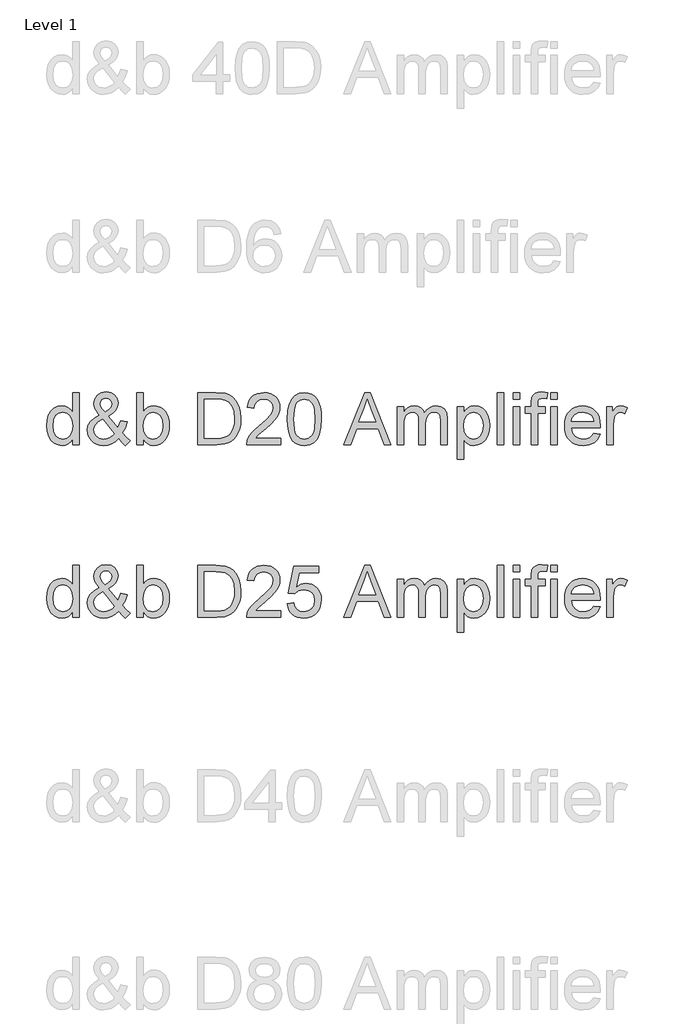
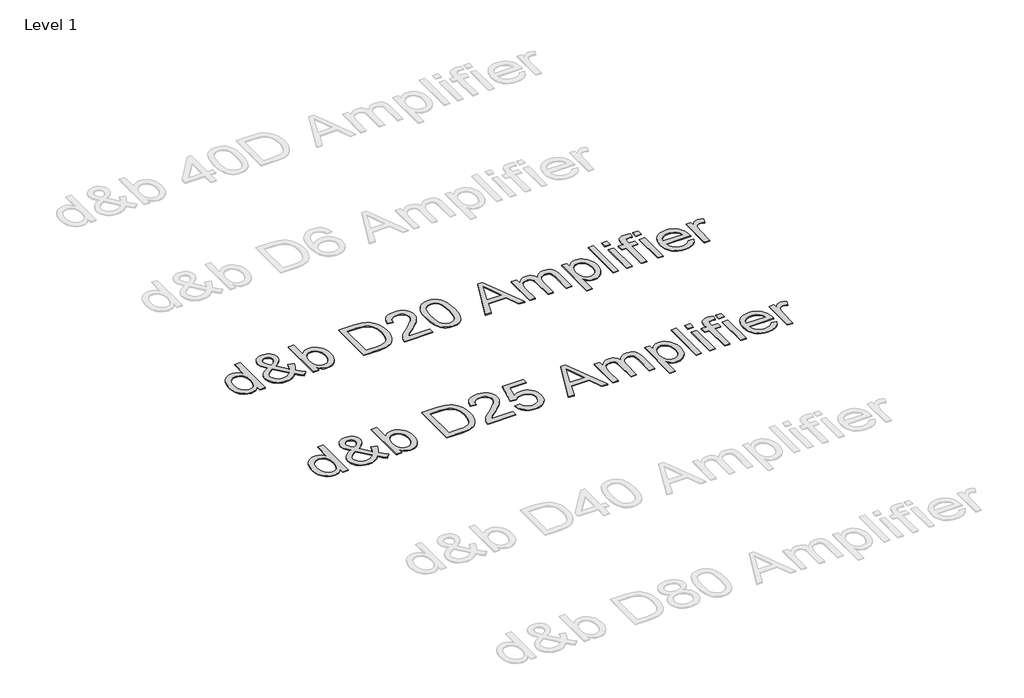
# One storey, part 7 of 14: 2 proxies.
"""IFC4 building model written with IfcOpenShell, lengths in millimetres."""

import ifcopenshell
import ifcopenshell.guid

model = None  # the IFC model being written
_history = None  # IfcOwnerHistory: only IFC2X3 demands one
_inside = {}  # id of a spatial element -> (the spatial element, [elements in it])
_under = {}  # id of a project, library or spatial element -> (it, [spatial elements below it])
_declared = {}  # id of a project -> (the project, [libraries it declares])
_typed = {}  # id of a type object -> (the type object, [elements of that type])
_made_of = {}  # id of a material, layer set ... -> (it, [elements and type objects made of it])


def new_model(schema):
    """Start an empty IFC model of exactly this schema.

    Asked for "IFC4X3", IfcOpenShell would pick the latest addendum, in which some entities
    have other attributes; the version numbers below select the first issue.
    IFC2X3 requires an IfcOwnerHistory on every rooted entity: one is made here for all.
    """
    global model, _history
    if schema == "IFC4X3":
        model = ifcopenshell.file(schema_version=(4, 3, 0, 0))
    else:
        model = ifcopenshell.file(schema=schema)
    _inside.clear()
    _under.clear()
    _declared.clear()
    _typed.clear()
    _made_of.clear()
    _history = None
    if model.schema == "IFC2X3":
        org = make("IfcOrganization", Name="unknown")
        user = make(
            "IfcPersonAndOrganization",
            ThePerson=make("IfcPerson", FamilyName="unknown"),
            TheOrganization=org,
        )
        app = make(
            "IfcApplication",
            ApplicationDeveloper=org,
            Version="unknown",
            ApplicationFullName="unknown",
            ApplicationIdentifier="unknown",
        )
        _history = make(
            "IfcOwnerHistory",
            OwningUser=user,
            OwningApplication=app,
            ChangeAction="ADDED",
            CreationDate=0,
        )
    return model


def make(cls, **values):
    """One entity of the class cls with the attributes given. An attribute that is None is left unset."""
    return model.create_entity(
        cls, **{name: value for name, value in values.items() if value is not None}
    )


def rooted(cls, **values):
    """An entity with a GlobalId (a new one), such as an element, a storey or a relation."""
    return make(cls, GlobalId=ifcopenshell.guid.new(), OwnerHistory=_history, **values)


def si_unit(unit_type, name, prefix=None):
    """IfcSIUnit, for example si_unit("LENGTHUNIT", "METRE", prefix="MILLI")."""
    return make("IfcSIUnit", UnitType=unit_type, Prefix=prefix, Name=name)


def assignment(units):
    """IfcUnitAssignment: the units of a project."""
    return None if units is None else make("IfcUnitAssignment", Units=units)


def point(xyz):
    """IfcCartesianPoint."""
    return None if xyz is None else make("IfcCartesianPoint", Coordinates=xyz)


def direction(xyz):
    """IfcDirection."""
    return None if xyz is None else make("IfcDirection", DirectionRatios=xyz)


def frame(location, z_axis=None, x_axis=None):
    """IfcAxis2Placement3D, a coordinate frame: its origin and axes. An axis left out is left unset."""
    return make(
        "IfcAxis2Placement3D",
        Location=point(location),
        Axis=direction(z_axis),
        RefDirection=direction(x_axis),
    )


def origin():
    """The frame at (0, 0, 0) with its axes left unset."""
    return frame((0.0, 0.0, 0.0))


def origin_with_axes():
    """The frame at (0, 0, 0) with the z axis (0, 0, 1) and the x axis (1, 0, 0) written out."""
    return frame((0.0, 0.0, 0.0), z_axis=(0.0, 0.0, 1.0), x_axis=(1.0, 0.0, 0.0))


def place(relative_to, where):
    """IfcLocalPlacement: puts the frame where relative to a parent placement (None: the world)."""
    return make(
        "IfcLocalPlacement", PlacementRelTo=relative_to, RelativePlacement=where
    )


def context(
    kind, dimensions, precision=None, world=None, true_north=None, identifier=None
):
    """IfcGeometricRepresentationContext, for example the 3D "Model" context."""
    return make(
        "IfcGeometricRepresentationContext",
        ContextIdentifier=identifier,
        ContextType=kind,
        CoordinateSpaceDimension=dimensions,
        Precision=precision,
        WorldCoordinateSystem=world,
        TrueNorth=true_north,
    )


def project(units=None, contexts=None):
    """IfcProject with its units and contexts."""
    return rooted(
        "IfcProject",
        Name="project",
        RepresentationContexts=contexts,
        UnitsInContext=assignment(units),
    )


def spatial(cls, under=None, at=None, **own):
    """A site, building, storey or space (cls), placed at a placement, below another one or the project."""
    s = rooted(cls, ObjectPlacement=at, **own)
    if under is not None:
        _under.setdefault(under.id(), (under, []))[1].append(s)
    return s


def polyline(points):
    """IfcPolyline through the points."""
    return make("IfcPolyline", Points=[point(p) for p in points])


def outline(outer, holes=None, kind="AREA"):
    """IfcArbitraryClosedProfileDef: a profile drawn as a closed curve; with holes, ...WithVoids."""
    if holes is None:
        return make("IfcArbitraryClosedProfileDef", ProfileType=kind, OuterCurve=outer)
    return make(
        "IfcArbitraryProfileDefWithVoids",
        ProfileType=kind,
        OuterCurve=outer,
        InnerCurves=holes,
    )


def extrude(swept, where, along, depth):
    """IfcExtrudedAreaSolid: the profile swept, set in the frame where, extruded along a direction by depth."""
    return make(
        "IfcExtrudedAreaSolid",
        SweptArea=swept,
        Position=where,
        ExtrudedDirection=direction(along),
        Depth=depth,
    )


def shape(context_of_items, identifier, shape_type, items):
    """IfcShapeRepresentation: the items that make up one representation, for example the "Body"."""
    return make(
        "IfcShapeRepresentation",
        ContextOfItems=context_of_items,
        RepresentationIdentifier=identifier,
        RepresentationType=shape_type,
        Items=items,
    )


def made_of(thing, what):
    """Note that an element or type object is made of a material, layer set ...; save() writes the relation."""
    if what is not None:
        _made_of.setdefault(what.id(), (what, []))[1].append(thing)
    return thing


def element(
    cls,
    number,
    at=None,
    inside=None,
    cuts=None,
    type_object=None,
    material=None,
    context=None,
    identifier="Body",
    shape_type=None,
    held_by="IfcProductDefinitionShape",
    body=None,
    shapes=None,
    **own,
):
    """One element of the class cls, such as IfcWall. Its Tag is "e" and its number.

    at: its placement. inside: the storey or other place that contains it. cuts: it is an
    opening in that element (IfcRelVoidsElement). A single representation is given by context,
    identifier, shape_type and body (its items); several are given by shapes. held_by: the class
    of the entity that holds the representations. save() writes the other relations.
    """
    e = rooted(cls, Tag="e%d" % number, ObjectPlacement=at, **own)
    if body is not None:
        shapes = [shape(context, identifier, shape_type, body)]
    if shapes is not None:
        e.Representation = make(held_by, Representations=shapes)
    if inside is not None:
        _inside.setdefault(inside.id(), (inside, []))[1].append(e)
    if cuts is not None:
        rooted(
            "IfcRelVoidsElement", RelatingBuildingElement=cuts, RelatedOpeningElement=e
        )
    if type_object is not None:
        _typed.setdefault(type_object.id(), (type_object, []))[1].append(e)
    return made_of(e, material)


def aggregate(whole, parts):
    """IfcRelAggregates: a whole, such as a stair, and the parts it consists of."""
    return rooted("IfcRelAggregates", RelatingObject=whole, RelatedObjects=parts)


def save(model, path):
    """Write the relations noted so far, then the file.

    IfcRelAggregates (storeys below a building ...), IfcRelContainedInSpatialStructure (elements
    in a storey), IfcRelDefinesByType, IfcRelAssociatesMaterial and IfcRelDeclares: one each for
    every whole, place, type object, material and project.
    """
    for whole, parts in _under.values():
        aggregate(whole, parts)
    for where, things in _inside.values():
        rooted(
            "IfcRelContainedInSpatialStructure",
            RelatedElements=things,
            RelatingStructure=where,
        )
    for kind, things in _typed.values():
        rooted("IfcRelDefinesByType", RelatedObjects=things, RelatingType=kind)
    for what, things in _made_of.values():
        rooted("IfcRelAssociatesMaterial", RelatedObjects=things, RelatingMaterial=what)
    for by, libraries in _declared.values():
        rooted("IfcRelDeclares", RelatingContext=by, RelatedDefinitions=libraries)
    model.write(path)


model = new_model("IFC4")

# Units and contexts
model_context = context("Model", 3, world=origin())
ifc_project = project(units=[si_unit("LENGTHUNIT", "METRE", prefix="MILLI")], contexts=[model_context])

# Site, building, storey
site = spatial("IfcSite", under=ifc_project)
building = spatial("IfcBuilding", under=site)
storey = spatial("IfcBuildingStorey", under=building, Name="Level 1", Elevation=0.0)

# Proxies
placement = place(None, origin())
element("IfcBuildingElementProxy", 1, Name="300mm Arial", ObjectType="300mm Arial", at=placement, inside=storey, context=model_context, shape_type="SweptSolid", body=[
    extrude(outline(polyline([(-19191.0990778, 10455.3155155), (-19191.0990778, 10490.8529162), (-19202.3700624, 10473.2451642), (-19216.0230829, 10460.6681985), (-19232.0581394, 10453.1220191), (-19250.4752318, 10450.6066259), (-19274.8290199, 10454.2486577), (-19297.1226688, 10465.1747529), (-19315.9950151, 10482.6215566), (-19330.0848956, 10505.8257134), (-19338.8588811, 10533.8491244), (-19341.783543, 10565.7536904), (-19339.0888074, 10597.2627833), (-19331.0046005, 10625.7184556), (-19317.5401195, 10649.5020266), (-19298.7045614, 10666.9948155), (-19275.9234688, 10677.7553638), (-19250.6223846, 10681.3422133), (-19232.1914966, 10678.7762364), (-19215.8943242, 10671.0783056), (-19202.0803553, 10659.2784906), (-19191.0990778, 10644.406861), (-19191.0990778, 10756.6844459), (-19153.4279615, 10756.6844459), (-19153.4279615, 10455.3155155), (-19191.0990778, 10455.3155155)]), holes=[polyline([(-19304.1124267, 10565.9008432), (-19299.8633896, 10531.8257734), (-19287.1162785, 10507.591547), (-19268.5934201, 10493.1061934), (-19247.017141, 10488.2777422), (-19225.4500591, 10492.8854642), (-19207.3962502, 10506.7086302), (-19195.1733709, 10530.0047575), (-19191.0990778, 10563.0313636), (-19195.2469473, 10599.1389815), (-19207.6905558, 10624.1733512), (-19226.2042172, 10638.7966606), (-19248.5622454, 10643.671097), (-19270.3592536, 10638.9897986), (-19288.2199245, 10624.9459034), (-19300.1393011, 10600.8220416), (-19304.1124267, 10565.9008432)])]), origin_with_axes(), (0.0, 0.0, 1.0), 5.0),
    extrude(outline(polyline([(-18924.0903257, 10492.5451734), (-18943.2385835, 10474.1970589), (-18964.0423104, 10461.0912628), (-18986.5382944, 10453.2277851), (-19010.7633237, 10450.6066259), (-19032.744273, 10452.5472034), (-19052.3339892, 10458.368936), (-19069.5324725, 10468.0718236), (-19084.3397228, 10481.6558663), (-19100.8392303, 10508.4560697), (-19106.3390661, 10538.2361172), (-19101.9152851, 10564.6316503), (-19088.6439421, 10588.3416449), (-19066.5802195, 10609.3477068), (-19035.7792994, 10627.631442), (-19062.0828621, 10665.7440167), (-19068.6679498, 10693.9973539), (-19063.4808136, 10719.4363939), (-19047.9194053, 10741.3069785), (-19024.5037163, 10756.3717462), (-18995.7537383, 10761.3933354), (-18968.401712, 10756.5924754), (-18946.5311274, 10742.1898953), (-18932.1837296, 10721.0550747), (-18927.4012636, 10696.0574931), (-18930.9421278, 10675.0698253), (-18941.5647204, 10655.66405), (-18959.2690415, 10637.8401674), (-18984.0550909, 10621.5981773), (-18929.5349792, 10553.687161), (-18920.2459588, 10573.0929362), (-18913.274595, 10595.4049792), (-18875.6034787, 10587.2379989), (-18887.1917616, 10552.3443917), (-18902.2381352, 10525.2130945), (-18880.827403, 10500.2339071), (-18856.7679206, 10479.5957271), (-18885.0212578, 10450.6066259), (-18904.243092, 10468.1913853), (-18924.0903257, 10492.5451734)]), holes=[polyline([(-18949.3270305, 10519.6948646), (-19016.5758593, 10603.6455359), (-19042.2632196, 10587.256393), (-19057.9625837, 10572.0812607), (-19065.9916083, 10557.5867101), (-19068.6679498, 10543.2393123), (-19065.0075239, 10525.4706119), (-19054.0262464, 10507.039724), (-19036.3311224, 10492.9682377), (-19012.5291573, 10488.2777422), (-18995.4870239, 10490.4666401), (-18977.9114616, 10497.0333337), (-18961.8442154, 10507.0765122), (-18949.3270305, 10519.6948646)]), polyline([(-19003.1113782, 10645.3633542), (-18983.4112974, 10657.862145), (-18972.1357142, 10668.7238609), (-18966.8382135, 10679.2912712), (-18965.0723799, 10690.9071452), (-18967.3992336, 10704.0681236), (-18974.3797944, 10714.5619575), (-18984.8552342, 10721.4321537), (-18997.6667247, 10723.7222191), (-19010.7541267, 10721.4505478), (-19021.4686898, 10714.6355339), (-19028.6147976, 10704.5463701), (-19030.9968335, 10692.4522496), (-19027.7594719, 10678.6566747), (-19017.9738108, 10663.3159955), (-19003.1113782, 10645.3633542)])]), origin_with_axes(), (0.0, 0.0, 1.0), 5.0),
    extrude(outline(polyline([(-18781.4256879, 10455.3155155), (-18819.0968043, 10455.3155155), (-18819.0968043, 10756.6844459), (-18781.4256879, 10756.6844459), (-18781.4256879, 10644.9218958), (-18769.0372618, 10660.8557847), (-18755.0485489, 10672.2371339), (-18739.4595493, 10679.0659435), (-18722.2702631, 10681.3422133), (-18702.8644879, 10679.2912712), (-18684.5255704, 10673.1384448), (-18668.3019744, 10663.2700103), (-18655.2421636, 10650.0722437), (-18645.0058471, 10633.6739038), (-18637.252734, 10614.2037492), (-18632.3691005, 10592.4711203), (-18630.7412227, 10569.2853576), (-18632.4265821, 10542.5311395), (-18637.4826603, 10518.9958888), (-18645.9094572, 10498.6796056), (-18657.706973, 10481.5822899), (-18671.8681305, 10468.0304369), (-18687.3858529, 10458.3505419), (-18704.2601402, 10452.5426049), (-18722.4909923, 10450.6066259), (-18740.2458971, 10453.103625), (-18755.986648, 10460.5946221), (-18769.7132449, 10473.0796173), (-18781.4256879, 10490.5586106), (-18781.4256879, 10455.3155155)]), holes=[polyline([(-18781.4256879, 10567.519524), (-18778.850514, 10536.1024016), (-18771.1249921, 10514.8388223), (-18761.9969201, 10503.2183498), (-18751.388123, 10494.9180122), (-18739.298601, 10489.9378097), (-18725.7283539, 10488.2777422), (-18703.986528, 10493.1705728), (-18685.4084872, 10507.8490644), (-18672.6613761, 10532.2212466), (-18668.412339, 10566.1951488), (-18672.4866321, 10600.6656918), (-18684.7095114, 10624.7619624), (-18702.708138, 10638.9438134), (-18724.1096731, 10643.671097), (-18745.851499, 10638.7782665), (-18764.4295398, 10624.0997748), (-18777.1766509, 10600.1690511), (-18781.4256879, 10567.519524)])]), origin_with_axes(), (0.0, 0.0, 1.0), 5.0),
    extrude(outline(polyline([(-18465.9300889, 10455.3155155), (-18465.9300889, 10756.6844459), (-18361.966637, 10756.6844459), (-18308.1822893, 10752.3434384), (-18284.1595951, 10743.974123), (-18263.8892971, 10730.7855534), (-18243.0487821, 10707.829717), (-18228.2047436, 10679.2820741), (-18219.3203934, 10645.694448), (-18216.3589434, 10607.6186615), (-18218.3639002, 10575.272637), (-18224.3787708, 10546.8077677), (-18233.5390325, 10522.5735412), (-18244.9801626, 10502.9194456), (-18258.150338, 10487.4040225), (-18272.4977358, 10475.5858134), (-18288.9696522, 10466.8210249), (-18308.5133831, 10460.4658634), (-18356.9634419, 10455.3155155), (-18465.9300889, 10455.3155155)]), holes=[polyline([(-18428.2589726, 10492.9866318), (-18361.598755, 10492.9866318), (-18334.0259995, 10494.3477951), (-18313.1119081, 10498.4312853), (-18297.3297705, 10504.9979789), (-18285.1528765, 10513.8087527), (-18272.0654745, 10530.1151221), (-18262.2338282, 10551.2223516), (-18256.0810018, 10577.2224116), (-18254.0300597, 10608.2072727), (-18258.0491705, 10649.2629033), (-18270.1065028, 10679.5763797), (-18287.9211885, 10700.3985006), (-18309.2123589, 10712.9800649), (-18330.8806085, 10717.5050134), (-18362.6288246, 10719.0133296), (-18428.2589726, 10719.0133296), (-18428.2589726, 10492.9866318)])]), origin_with_axes(), (0.0, 0.0, 1.0), 5.0),
    extrude(outline(polyline([(-17985.623356, 10492.9866318), (-17985.623356, 10455.3155155), (-18183.3967166, 10455.3155155), (-18179.3500146, 10481.2879843), (-18170.0517972, 10501.5858734), (-18156.4309663, 10521.2767572), (-18136.7400825, 10541.887346), (-18109.2317064, 10564.94435), (-18068.5899429, 10601.0519679), (-18044.2269578, 10627.7050184), (-18032.0592608, 10649.3364797), (-18028.0033618, 10670.3793298), (-18031.8385316, 10689.2424791), (-18043.344041, 10704.9234492), (-18061.0299679, 10715.4908595), (-18083.4063903, 10719.0133296), (-18106.9048527, 10715.5736329), (-18125.1609967, 10705.254543), (-18136.9424176, 10688.8654001), (-18141.0167107, 10667.2155447), (-18178.687827, 10671.9244342), (-18169.5551565, 10708.3631458), (-18161.0087979, 10722.8990832), (-18149.8090904, 10734.9794082), (-18136.2135514, 10744.4753622), (-18120.4796984, 10751.2581865), (-18082.5970499, 10756.6844459), (-18062.4072262, 10755.1761297), (-18044.43849, 10750.6511812), (-18028.6908413, 10743.1096003), (-18015.1642802, 10732.551387), (-18004.300265, 10719.7582906), (-17996.5402542, 10705.5120604), (-17991.8842477, 10689.8126962), (-17990.3322455, 10672.6601982), (-17992.0061086, 10654.6431775), (-17997.0276978, 10636.9388565), (-18005.9396392, 10618.9310328), (-18019.2845585, 10600.0035042), (-18040.5573349, 10577.4063526), (-18073.2528472, 10548.3896602), (-18116.5893463, 10512.1532837), (-18133.5854944, 10492.9866318), (-17985.623356, 10492.9866318)])), origin_with_axes(), (0.0, 0.0, 1.0), 5.0),
    extrude(outline(polyline([(-17947.9522397, 10603.5719595), (-17945.1839277, 10651.8104861), (-17936.8789916, 10690.2817458), (-17923.120205, 10719.5743496), (-17903.9903412, 10740.2769089), (-17879.3514446, 10752.5825617), (-17849.0655594, 10756.6844459), (-17825.8522055, 10754.2564247), (-17805.0668727, 10746.9723612), (-17787.6844485, 10735.1173639), (-17774.6798199, 10718.9765414), (-17764.8573707, 10698.6878494), (-17757.0214842, 10674.3892436), (-17751.8895303, 10643.5331412), (-17750.1788791, 10603.5719595), (-17752.9195999, 10555.6093444), (-17761.1417625, 10517.2300552), (-17774.8177757, 10487.9098602), (-17793.9200483, 10467.1245275), (-17818.6141272, 10454.7361013), (-17849.0655594, 10450.6066259), (-17869.8141039, 10452.4000506), (-17888.2082037, 10457.7803248), (-17904.2478586, 10466.7474485), (-17917.9330689, 10479.3014215), (-17931.0664561, 10501.9951421), (-17940.447447, 10530.271472), (-17946.0760415, 10564.1304111), (-17947.9522397, 10603.5719595)]), holes=[polyline([(-17910.2811234, 10603.6455359), (-17905.8665394, 10544.3889435), (-17900.3483095, 10524.1209449), (-17892.6227876, 10510.0931445), (-17872.9043127, 10493.7315928), (-17849.0655594, 10488.2777422), (-17825.2268061, 10493.7499869), (-17805.5083311, 10510.1667209), (-17797.7828092, 10524.2175139), (-17792.2645793, 10544.480914), (-17787.8499954, 10603.6455359), (-17792.1174265, 10661.5685561), (-17797.4517154, 10681.7698761), (-17804.9197199, 10696.1310695), (-17824.6014067, 10713.2927646), (-17849.5070178, 10719.0133296), (-17873.0882537, 10713.9733463), (-17892.0341764, 10698.8533963), (-17900.0172157, 10683.2184115), (-17905.7193866, 10662.1387731), (-17910.2811234, 10603.6455359)])]), origin_with_axes(), (0.0, 0.0, 1.0), 5.0),
    extrude(outline(polyline([(-17620.3901112, 10455.3155155), (-17500.0926987, 10756.6844459), (-17468.0133888, 10756.6844459), (-17347.7895527, 10455.3155155), (-17387.5943846, 10455.3155155), (-17422.0281394, 10549.4933062), (-17546.2251009, 10549.4933062), (-17580.6588557, 10455.3155155), (-17620.3901112, 10455.3155155)]), holes=[polyline([(-17532.3927379, 10587.1644225), (-17435.786926, 10587.1644225), (-17463.0101936, 10661.2558564), (-17484.1266202, 10719.0133296), (-17502.8886019, 10667.7305795), (-17532.3927379, 10587.1644225)])]), origin_with_axes(), (0.0, 0.0, 1.0), 5.0),
    extrude(outline(polyline([(-17312.252152, 10455.3155155), (-17312.252152, 10676.6333238), (-17274.5810357, 10676.6333238), (-17274.5810357, 10640.2130062), (-17263.2502702, 10656.94244), (-17248.6821432, 10670.048236), (-17231.3732954, 10678.518719), (-17211.8203673, 10681.3422133), (-17190.8694877, 10678.4635367), (-17174.0756746, 10669.8275068), (-17161.5308986, 10656.0043409), (-17153.3271301, 10637.5642559), (-17139.5959346, 10656.7171122), (-17123.9333587, 10670.3977239), (-17106.3394023, 10678.606091), (-17086.8140654, 10681.3422133), (-17058.4963488, 10676.7896736), (-17037.5546662, 10663.1320545), (-17024.614417, 10640.0014741), (-17020.3010006, 10607.0300503), (-17020.3010006, 10455.3155155), (-17057.9721169, 10455.3155155), (-17057.9721169, 10590.8432425), (-17061.4669959, 10622.2971531), (-17066.3782205, 10630.9699711), (-17074.1221365, 10637.7849851), (-17084.0825415, 10642.199569), (-17095.6432332, 10643.671097), (-17116.0514869, 10639.9003065), (-17132.6889502, 10628.5879352), (-17143.7530012, 10608.9614307), (-17147.4410182, 10580.248241), (-17147.4410182, 10455.3155155), (-17185.1121345, 10455.3155155), (-17185.1121345, 10595.0370972), (-17187.2918353, 10616.3374648), (-17193.8309378, 10631.5309912), (-17205.3364472, 10640.6360705), (-17222.4153688, 10643.671097), (-17236.9283135, 10641.647746), (-17250.300824, 10635.5776931), (-17261.3372839, 10625.608091), (-17268.8420766, 10611.8860926), (-17273.1462959, 10592.8481994), (-17274.5810357, 10566.9309128), (-17274.5810357, 10455.3155155), (-17312.252152, 10455.3155155)])), origin_with_axes(), (0.0, 0.0, 1.0), 5.0),
    extrude(outline(polyline([(-16963.7943262, 10370.5555038), (-16963.7943262, 10676.6333238), (-16926.1232099, 10676.6333238), (-16926.1232099, 10639.6979714), (-16913.8359512, 10657.9173273), (-16900.0771646, 10670.9311528), (-16884.0375096, 10678.7394482), (-16864.9076459, 10681.3422133), (-16839.4318177, 10677.7001815), (-16817.1565629, 10666.7740863), (-16799.0199805, 10649.2261151), (-16785.9601697, 10625.7184556), (-16778.0691009, 10597.9617591), (-16775.4387446, 10567.6666768), (-16778.4093918, 10535.4494111), (-16787.3213331, 10506.6350538), (-16801.8894601, 10482.6859359), (-16821.8286642, 10465.0643883), (-16845.0512152, 10454.2210665), (-16869.4693826, 10450.6066259), (-16886.7874275, 10453.02545), (-16902.2476684, 10460.2819224), (-16915.4822232, 10471.2356088), (-16926.1232099, 10484.7460751), (-16926.1232099, 10370.5555038), (-16963.7943262, 10370.5555038)]), holes=[polyline([(-16926.1232099, 10564.208586), (-16922.0489168, 10530.4370189), (-16909.8260375, 10506.8189948), (-16891.7906227, 10492.9130554), (-16870.278723, 10488.2777422), (-16848.4173354, 10493.0786023), (-16829.9220681, 10507.4811824), (-16817.3129127, 10531.9637292), (-16813.109861, 10567.0044892), (-16817.2117452, 10600.5921154), (-16829.5173979, 10624.5412332), (-16847.5252216, 10638.8886311), (-16868.7336186, 10643.671097), (-16890.0247891, 10638.5851284), (-16908.7223915, 10623.3272227), (-16921.7730053, 10598.3756263), (-16926.1232099, 10564.208586)])]), origin_with_axes(), (0.0, 0.0, 1.0), 5.0),
    extrude(outline(polyline([(-16733.0587388, 10455.3155155), (-16733.0587388, 10756.6844459), (-16695.3876225, 10756.6844459), (-16695.3876225, 10455.3155155), (-16733.0587388, 10455.3155155)])), origin_with_axes(), (0.0, 0.0, 1.0), 5.0),
    extrude(outline(polyline([(-16638.880948, 10719.0133296), (-16638.880948, 10756.6844459), (-16601.2098317, 10756.6844459), (-16601.2098317, 10719.0133296), (-16638.880948, 10719.0133296)])), origin_with_axes(), (0.0, 0.0, 1.0), 5.0),
    extrude(outline(polyline([(-16638.880948, 10455.3155155), (-16638.880948, 10676.6333238), (-16601.2098317, 10676.6333238), (-16601.2098317, 10455.3155155), (-16638.880948, 10455.3155155)])), origin_with_axes(), (0.0, 0.0, 1.0), 5.0),
    extrude(outline(polyline([(-16535.2853782, 10455.3155155), (-16535.2853782, 10638.9622075), (-16568.247605, 10638.9622075), (-16568.247605, 10676.6333238), (-16535.2853782, 10676.6333238), (-16535.2853782, 10698.9269727), (-16531.3122526, 10730.3440951), (-16523.7338835, 10742.870477), (-16512.0352361, 10752.7848968), (-16495.6644873, 10759.2412258), (-16474.0698142, 10761.3933354), (-16439.7096358, 10757.2730571), (-16445.2278658, 10721.9563856), (-16466.9329035, 10723.7222191), (-16481.2527102, 10722.1587207), (-16490.6612922, 10717.4682252), (-16495.8760195, 10708.5102986), (-16497.6142619, 10694.1445067), (-16497.6142619, 10676.6333238), (-16455.234256, 10676.6333238), (-16455.234256, 10638.9622075), (-16497.6142619, 10638.9622075), (-16497.6142619, 10455.3155155), (-16535.2853782, 10455.3155155)])), origin_with_axes(), (0.0, 0.0, 1.0), 5.0),
    extrude(outline(polyline([(-16422.2720293, 10455.3155155), (-16422.2720293, 10676.6333238), (-16384.600913, 10676.6333238), (-16384.600913, 10455.3155155), (-16422.2720293, 10455.3155155)])), origin_with_axes(), (0.0, 0.0, 1.0), 5.0),
    extrude(outline(polyline([(-16422.2720293, 10719.0133296), (-16422.2720293, 10756.6844459), (-16384.600913, 10756.6844459), (-16384.600913, 10719.0133296), (-16422.2720293, 10719.0133296)])), origin_with_axes(), (0.0, 0.0, 1.0), 5.0),
    extrude(outline(polyline([(-16173.1423421, 10521.239969), (-16136.2069898, 10516.5310795), (-16149.515121, 10488.7008065), (-16170.7511092, 10467.8970797), (-16199.4367077, 10454.9292394), (-16235.0936701, 10450.6066259), (-16258.4679724, 10452.4713278), (-16279.2946919, 10458.0654334), (-16297.5738285, 10467.3889427), (-16313.3053823, 10480.4418557), (-16325.9559244, 10496.860889), (-16334.9920259, 10516.2827591), (-16340.4136868, 10538.707466), (-16342.2209071, 10564.1350096), (-16340.3952927, 10590.4247767), (-16334.9184495, 10613.5967439), (-16325.7903775, 10633.6509111), (-16313.0110767, 10650.5872785), (-16297.3209096, 10664.0425625), (-16279.4602387, 10673.6534796), (-16259.4290641, 10679.4200299), (-16237.2273857, 10681.3422133), (-16215.7407779, 10679.4246284), (-16196.3097108, 10673.6718737), (-16178.9341843, 10664.0839492), (-16163.6141985, 10650.6608549), (-16151.1085099, 10633.7612757), (-16142.1758752, 10613.7438967), (-16136.8162944, 10590.6087177), (-16135.0297674, 10564.3557388), (-16135.2504966, 10554.2021958), (-16304.5497908, 10554.2021958), (-16298.0290825, 10526.0040408), (-16282.8815413, 10505.2738904), (-16261.0201537, 10492.5267793), (-16234.3579061, 10488.2777422), (-16214.3083374, 10490.2459109), (-16197.4225538, 10496.1504169), (-16183.7005554, 10506.3591423), (-16173.1423421, 10521.239969)]), holes=[polyline([(-16304.5497908, 10591.8733121), (-16172.7008837, 10591.8733121), (-16177.7960494, 10611.775728), (-16187.7840455, 10626.0127612), (-16209.7466007, 10639.256513), (-16237.3745385, 10643.671097), (-16262.7675932, 10640.1486269), (-16283.7644581, 10629.5812166), (-16298.3601763, 10613.1093002), (-16304.5497908, 10591.8733121)])]), origin_with_axes(), (0.0, 0.0, 1.0), 5.0),
    extrude(outline(polyline([(-16097.3586511, 10455.3155155), (-16097.3586511, 10676.6333238), (-16064.3964244, 10676.6333238), (-16064.3964244, 10643.8918262), (-16052.2195303, 10662.8745371), (-16040.9991295, 10674.0581498), (-16029.7419404, 10679.5211974), (-16017.4546818, 10681.3422133), (-15998.6927, 10678.4359455), (-15979.6364127, 10669.7171423), (-15992.2179769, 10635.9455751), (-16005.4617287, 10641.7397165), (-16018.7054806, 10643.671097), (-16029.9534726, 10641.8132929), (-16040.0058481, 10636.2398807), (-16048.1268431, 10627.3739246), (-16053.5806937, 10615.638489), (-16058.1608245, 10594.5956388), (-16059.6875348, 10571.6398023), (-16059.6875348, 10455.3155155), (-16097.3586511, 10455.3155155)])), origin_with_axes(), (0.0, 0.0, 1.0), 5.0),
])
element("IfcBuildingElementProxy", 2, Name="300mm Arial", ObjectType="300mm Arial", at=placement, inside=storey, context=model_context, shape_type="SweptSolid", body=[
    extrude(outline(polyline([(-19191.0990778, 9455.3155155), (-19191.0990778, 9490.8529162), (-19202.3700624, 9473.2451642), (-19216.0230829, 9460.6681985), (-19232.0581394, 9453.1220191), (-19250.4752318, 9450.6066259), (-19274.8290199, 9454.2486577), (-19297.1226688, 9465.1747529), (-19315.9950151, 9482.6215566), (-19330.0848956, 9505.8257134), (-19338.8588811, 9533.8491244), (-19341.783543, 9565.7536904), (-19339.0888074, 9597.2627833), (-19331.0046005, 9625.7184556), (-19317.5401195, 9649.5020266), (-19298.7045614, 9666.9948155), (-19275.9234688, 9677.7553638), (-19250.6223846, 9681.3422133), (-19232.1914966, 9678.7762364), (-19215.8943242, 9671.0783056), (-19202.0803553, 9659.2784906), (-19191.0990778, 9644.406861), (-19191.0990778, 9756.6844459), (-19153.4279615, 9756.6844459), (-19153.4279615, 9455.3155155), (-19191.0990778, 9455.3155155)]), holes=[polyline([(-19304.1124267, 9565.9008432), (-19299.8633896, 9531.8257734), (-19287.1162785, 9507.591547), (-19268.5934201, 9493.1061934), (-19247.017141, 9488.2777422), (-19225.4500591, 9492.8854642), (-19207.3962502, 9506.7086302), (-19195.1733709, 9530.0047575), (-19191.0990778, 9563.0313636), (-19195.2469473, 9599.1389815), (-19207.6905558, 9624.1733512), (-19226.2042172, 9638.7966606), (-19248.5622454, 9643.671097), (-19270.3592536, 9638.9897986), (-19288.2199245, 9624.9459034), (-19300.1393011, 9600.8220416), (-19304.1124267, 9565.9008432)])]), origin_with_axes(), (0.0, 0.0, 1.0), 5.0),
    extrude(outline(polyline([(-18924.0903257, 9492.5451734), (-18943.2385835, 9474.1970589), (-18964.0423104, 9461.0912628), (-18986.5382944, 9453.2277851), (-19010.7633237, 9450.6066259), (-19032.744273, 9452.5472034), (-19052.3339892, 9458.368936), (-19069.5324725, 9468.0718236), (-19084.3397228, 9481.6558663), (-19100.8392303, 9508.4560697), (-19106.3390661, 9538.2361172), (-19101.9152851, 9564.6316503), (-19088.6439421, 9588.3416449), (-19066.5802195, 9609.3477068), (-19035.7792994, 9627.631442), (-19062.0828621, 9665.7440167), (-19068.6679498, 9693.9973539), (-19063.4808136, 9719.4363939), (-19047.9194053, 9741.3069785), (-19024.5037163, 9756.3717462), (-18995.7537383, 9761.3933354), (-18968.401712, 9756.5924754), (-18946.5311274, 9742.1898953), (-18932.1837296, 9721.0550747), (-18927.4012636, 9696.0574931), (-18930.9421278, 9675.0698253), (-18941.5647204, 9655.66405), (-18959.2690415, 9637.8401674), (-18984.0550909, 9621.5981773), (-18929.5349792, 9553.687161), (-18920.2459588, 9573.0929362), (-18913.274595, 9595.4049792), (-18875.6034787, 9587.2379989), (-18887.1917616, 9552.3443917), (-18902.2381352, 9525.2130945), (-18880.827403, 9500.2339071), (-18856.7679206, 9479.5957271), (-18885.0212578, 9450.6066259), (-18904.243092, 9468.1913853), (-18924.0903257, 9492.5451734)]), holes=[polyline([(-18949.3270305, 9519.6948646), (-19016.5758593, 9603.6455359), (-19042.2632196, 9587.256393), (-19057.9625837, 9572.0812607), (-19065.9916083, 9557.5867101), (-19068.6679498, 9543.2393123), (-19065.0075239, 9525.4706119), (-19054.0262464, 9507.039724), (-19036.3311224, 9492.9682377), (-19012.5291573, 9488.2777422), (-18995.4870239, 9490.4666401), (-18977.9114616, 9497.0333337), (-18961.8442154, 9507.0765122), (-18949.3270305, 9519.6948646)]), polyline([(-19003.1113782, 9645.3633542), (-18983.4112974, 9657.862145), (-18972.1357142, 9668.7238609), (-18966.8382135, 9679.2912712), (-18965.0723799, 9690.9071452), (-18967.3992336, 9704.0681236), (-18974.3797944, 9714.5619575), (-18984.8552342, 9721.4321537), (-18997.6667247, 9723.7222191), (-19010.7541267, 9721.4505478), (-19021.4686898, 9714.6355339), (-19028.6147976, 9704.5463701), (-19030.9968335, 9692.4522496), (-19027.7594719, 9678.6566747), (-19017.9738108, 9663.3159955), (-19003.1113782, 9645.3633542)])]), origin_with_axes(), (0.0, 0.0, 1.0), 5.0),
    extrude(outline(polyline([(-18781.4256879, 9455.3155155), (-18819.0968043, 9455.3155155), (-18819.0968043, 9756.6844459), (-18781.4256879, 9756.6844459), (-18781.4256879, 9644.9218958), (-18769.0372618, 9660.8557847), (-18755.0485489, 9672.2371339), (-18739.4595493, 9679.0659435), (-18722.2702631, 9681.3422133), (-18702.8644879, 9679.2912712), (-18684.5255704, 9673.1384448), (-18668.3019744, 9663.2700103), (-18655.2421636, 9650.0722437), (-18645.0058471, 9633.6739038), (-18637.252734, 9614.2037492), (-18632.3691005, 9592.4711203), (-18630.7412227, 9569.2853576), (-18632.4265821, 9542.5311395), (-18637.4826603, 9518.9958888), (-18645.9094572, 9498.6796056), (-18657.706973, 9481.5822899), (-18671.8681305, 9468.0304369), (-18687.3858529, 9458.3505419), (-18704.2601402, 9452.5426049), (-18722.4909923, 9450.6066259), (-18740.2458971, 9453.103625), (-18755.986648, 9460.5946221), (-18769.7132449, 9473.0796173), (-18781.4256879, 9490.5586106), (-18781.4256879, 9455.3155155)]), holes=[polyline([(-18781.4256879, 9567.519524), (-18778.850514, 9536.1024016), (-18771.1249921, 9514.8388223), (-18761.9969201, 9503.2183498), (-18751.388123, 9494.9180122), (-18739.298601, 9489.9378097), (-18725.7283539, 9488.2777422), (-18703.986528, 9493.1705728), (-18685.4084872, 9507.8490644), (-18672.6613761, 9532.2212466), (-18668.412339, 9566.1951488), (-18672.4866321, 9600.6656918), (-18684.7095114, 9624.7619624), (-18702.708138, 9638.9438134), (-18724.1096731, 9643.671097), (-18745.851499, 9638.7782665), (-18764.4295398, 9624.0997748), (-18777.1766509, 9600.1690511), (-18781.4256879, 9567.519524)])]), origin_with_axes(), (0.0, 0.0, 1.0), 5.0),
    extrude(outline(polyline([(-18465.9300889, 9455.3155155), (-18465.9300889, 9756.6844459), (-18361.966637, 9756.6844459), (-18308.1822893, 9752.3434384), (-18284.1595951, 9743.974123), (-18263.8892971, 9730.7855534), (-18243.0487821, 9707.829717), (-18228.2047436, 9679.2820741), (-18219.3203934, 9645.694448), (-18216.3589434, 9607.6186615), (-18218.3639002, 9575.272637), (-18224.3787708, 9546.8077677), (-18233.5390325, 9522.5735412), (-18244.9801626, 9502.9194456), (-18258.150338, 9487.4040225), (-18272.4977358, 9475.5858134), (-18288.9696522, 9466.8210249), (-18308.5133831, 9460.4658634), (-18356.9634419, 9455.3155155), (-18465.9300889, 9455.3155155)]), holes=[polyline([(-18428.2589726, 9492.9866318), (-18361.598755, 9492.9866318), (-18334.0259995, 9494.3477951), (-18313.1119081, 9498.4312853), (-18297.3297705, 9504.9979789), (-18285.1528765, 9513.8087527), (-18272.0654745, 9530.1151221), (-18262.2338282, 9551.2223516), (-18256.0810018, 9577.2224116), (-18254.0300597, 9608.2072727), (-18258.0491705, 9649.2629033), (-18270.1065028, 9679.5763797), (-18287.9211885, 9700.3985006), (-18309.2123589, 9712.9800649), (-18330.8806085, 9717.5050134), (-18362.6288246, 9719.0133296), (-18428.2589726, 9719.0133296), (-18428.2589726, 9492.9866318)])]), origin_with_axes(), (0.0, 0.0, 1.0), 5.0),
    extrude(outline(polyline([(-17985.623356, 9492.9866318), (-17985.623356, 9455.3155155), (-18183.3967166, 9455.3155155), (-18179.3500146, 9481.2879843), (-18170.0517972, 9501.5858734), (-18156.4309663, 9521.2767572), (-18136.7400825, 9541.887346), (-18109.2317064, 9564.94435), (-18068.5899429, 9601.0519679), (-18044.2269578, 9627.7050184), (-18032.0592608, 9649.3364797), (-18028.0033618, 9670.3793298), (-18031.8385316, 9689.2424791), (-18043.344041, 9704.9234492), (-18061.0299679, 9715.4908595), (-18083.4063903, 9719.0133296), (-18106.9048527, 9715.5736329), (-18125.1609967, 9705.254543), (-18136.9424176, 9688.8654001), (-18141.0167107, 9667.2155447), (-18178.687827, 9671.9244342), (-18169.5551565, 9708.3631458), (-18161.0087979, 9722.8990832), (-18149.8090904, 9734.9794082), (-18136.2135514, 9744.4753622), (-18120.4796984, 9751.2581865), (-18082.5970499, 9756.6844459), (-18062.4072262, 9755.1761297), (-18044.43849, 9750.6511812), (-18028.6908413, 9743.1096003), (-18015.1642802, 9732.551387), (-18004.300265, 9719.7582906), (-17996.5402542, 9705.5120604), (-17991.8842477, 9689.8126962), (-17990.3322455, 9672.6601982), (-17992.0061086, 9654.6431775), (-17997.0276978, 9636.9388565), (-18005.9396392, 9618.9310328), (-18019.2845585, 9600.0035042), (-18040.5573349, 9577.4063526), (-18073.2528472, 9548.3896602), (-18116.5893463, 9512.1532837), (-18133.5854944, 9492.9866318), (-17985.623356, 9492.9866318)])), origin_with_axes(), (0.0, 0.0, 1.0), 5.0),
    extrude(outline(polyline([(-17947.9522397, 9535.3666376), (-17910.2811234, 9540.0755272), (-17903.3649419, 9517.4599815), (-17891.2984124, 9501.2639767), (-17874.1367173, 9491.5243008), (-17851.9350389, 9488.2777422), (-17824.9325005, 9492.7934937), (-17804.6989908, 9506.3407482), (-17792.0622442, 9527.3560072), (-17787.8499954, 9554.2757722), (-17791.7955298, 9579.6228416), (-17803.632133, 9599.0102228), (-17823.4517755, 9611.3158755), (-17851.3464277, 9615.4177598), (-17869.6209658, 9613.7806849), (-17884.4190191, 9608.8694602), (-17905.5722338, 9591.8733121), (-17943.2433501, 9596.5822016), (-17910.2811234, 9751.9755564), (-17764.3055477, 9751.9755564), (-17764.3055477, 9714.3044401), (-17879.8204942, 9714.3044401), (-17896.007302, 9631.310262), (-17869.096734, 9647.6442225), (-17840.8985791, 9653.0888761), (-17822.5504646, 9651.4012174), (-17805.6922721, 9646.3382415), (-17790.3240018, 9637.8999482), (-17776.4456535, 9626.0863376), (-17764.9539397, 9611.6193782), (-17756.7455727, 9595.2210382), (-17751.8205525, 9576.8913178), (-17750.1788791, 9556.6302169), (-17756.0833851, 9518.9591006), (-17763.4640176, 9502.1652875), (-17773.7969032, 9486.7326378), (-17789.4502821, 9470.9275076), (-17807.7156231, 9459.6381289), (-17828.5929263, 9452.8645017), (-17852.0821917, 9450.6066259), (-17889.0819234, 9456.4099644), (-17904.7605942, 9463.6641375), (-17918.5584683, 9473.8199798), (-17930.0386858, 9486.3716536), (-17938.7643868, 9500.8133212), (-17947.9522397, 9535.3666376)])), origin_with_axes(), (0.0, 0.0, 1.0), 5.0),
    extrude(outline(polyline([(-17620.3901112, 9455.3155155), (-17500.0926987, 9756.6844459), (-17468.0133888, 9756.6844459), (-17347.7895527, 9455.3155155), (-17387.5943846, 9455.3155155), (-17422.0281394, 9549.4933062), (-17546.2251009, 9549.4933062), (-17580.6588557, 9455.3155155), (-17620.3901112, 9455.3155155)]), holes=[polyline([(-17532.3927379, 9587.1644225), (-17435.786926, 9587.1644225), (-17463.0101936, 9661.2558564), (-17484.1266202, 9719.0133296), (-17502.8886019, 9667.7305795), (-17532.3927379, 9587.1644225)])]), origin_with_axes(), (0.0, 0.0, 1.0), 5.0),
    extrude(outline(polyline([(-17312.252152, 9455.3155155), (-17312.252152, 9676.6333238), (-17274.5810357, 9676.6333238), (-17274.5810357, 9640.2130062), (-17263.2502702, 9656.94244), (-17248.6821432, 9670.048236), (-17231.3732954, 9678.518719), (-17211.8203673, 9681.3422133), (-17190.8694877, 9678.4635367), (-17174.0756746, 9669.8275068), (-17161.5308986, 9656.0043409), (-17153.3271301, 9637.5642559), (-17139.5959346, 9656.7171122), (-17123.9333587, 9670.3977239), (-17106.3394023, 9678.606091), (-17086.8140654, 9681.3422133), (-17058.4963488, 9676.7896736), (-17037.5546662, 9663.1320545), (-17024.614417, 9640.0014741), (-17020.3010006, 9607.0300503), (-17020.3010006, 9455.3155155), (-17057.9721169, 9455.3155155), (-17057.9721169, 9590.8432425), (-17061.4669959, 9622.2971531), (-17066.3782205, 9630.9699711), (-17074.1221365, 9637.7849851), (-17084.0825415, 9642.199569), (-17095.6432332, 9643.671097), (-17116.0514869, 9639.9003065), (-17132.6889502, 9628.5879352), (-17143.7530012, 9608.9614307), (-17147.4410182, 9580.248241), (-17147.4410182, 9455.3155155), (-17185.1121345, 9455.3155155), (-17185.1121345, 9595.0370972), (-17187.2918353, 9616.3374648), (-17193.8309378, 9631.5309912), (-17205.3364472, 9640.6360705), (-17222.4153688, 9643.671097), (-17236.9283135, 9641.647746), (-17250.300824, 9635.5776931), (-17261.3372839, 9625.608091), (-17268.8420766, 9611.8860926), (-17273.1462959, 9592.8481994), (-17274.5810357, 9566.9309128), (-17274.5810357, 9455.3155155), (-17312.252152, 9455.3155155)])), origin_with_axes(), (0.0, 0.0, 1.0), 5.0),
    extrude(outline(polyline([(-16963.7943262, 9370.5555038), (-16963.7943262, 9676.6333238), (-16926.1232099, 9676.6333238), (-16926.1232099, 9639.6979714), (-16913.8359512, 9657.9173273), (-16900.0771646, 9670.9311528), (-16884.0375096, 9678.7394482), (-16864.9076459, 9681.3422133), (-16839.4318177, 9677.7001815), (-16817.1565629, 9666.7740863), (-16799.0199805, 9649.2261151), (-16785.9601697, 9625.7184556), (-16778.0691009, 9597.9617591), (-16775.4387446, 9567.6666768), (-16778.4093918, 9535.4494111), (-16787.3213331, 9506.6350538), (-16801.8894601, 9482.6859359), (-16821.8286642, 9465.0643883), (-16845.0512152, 9454.2210665), (-16869.4693826, 9450.6066259), (-16886.7874275, 9453.02545), (-16902.2476684, 9460.2819224), (-16915.4822232, 9471.2356088), (-16926.1232099, 9484.7460751), (-16926.1232099, 9370.5555038), (-16963.7943262, 9370.5555038)]), holes=[polyline([(-16926.1232099, 9564.208586), (-16922.0489168, 9530.4370189), (-16909.8260375, 9506.8189948), (-16891.7906227, 9492.9130554), (-16870.278723, 9488.2777422), (-16848.4173354, 9493.0786023), (-16829.9220681, 9507.4811824), (-16817.3129127, 9531.9637292), (-16813.109861, 9567.0044892), (-16817.2117452, 9600.5921154), (-16829.5173979, 9624.5412332), (-16847.5252216, 9638.8886311), (-16868.7336186, 9643.671097), (-16890.0247891, 9638.5851284), (-16908.7223915, 9623.3272227), (-16921.7730053, 9598.3756263), (-16926.1232099, 9564.208586)])]), origin_with_axes(), (0.0, 0.0, 1.0), 5.0),
    extrude(outline(polyline([(-16733.0587388, 9455.3155155), (-16733.0587388, 9756.6844459), (-16695.3876225, 9756.6844459), (-16695.3876225, 9455.3155155), (-16733.0587388, 9455.3155155)])), origin_with_axes(), (0.0, 0.0, 1.0), 5.0),
    extrude(outline(polyline([(-16638.880948, 9455.3155155), (-16638.880948, 9676.6333238), (-16601.2098317, 9676.6333238), (-16601.2098317, 9455.3155155), (-16638.880948, 9455.3155155)])), origin_with_axes(), (0.0, 0.0, 1.0), 5.0),
    extrude(outline(polyline([(-16638.880948, 9719.0133296), (-16638.880948, 9756.6844459), (-16601.2098317, 9756.6844459), (-16601.2098317, 9719.0133296), (-16638.880948, 9719.0133296)])), origin_with_axes(), (0.0, 0.0, 1.0), 5.0),
    extrude(outline(polyline([(-16535.2853782, 9455.3155155), (-16535.2853782, 9638.9622075), (-16568.247605, 9638.9622075), (-16568.247605, 9676.6333238), (-16535.2853782, 9676.6333238), (-16535.2853782, 9698.9269727), (-16531.3122526, 9730.3440951), (-16523.7338835, 9742.870477), (-16512.0352361, 9752.7848968), (-16495.6644873, 9759.2412258), (-16474.0698142, 9761.3933354), (-16439.7096358, 9757.2730571), (-16445.2278658, 9721.9563856), (-16466.9329035, 9723.7222191), (-16481.2527102, 9722.1587207), (-16490.6612922, 9717.4682252), (-16495.8760195, 9708.5102986), (-16497.6142619, 9694.1445067), (-16497.6142619, 9676.6333238), (-16455.234256, 9676.6333238), (-16455.234256, 9638.9622075), (-16497.6142619, 9638.9622075), (-16497.6142619, 9455.3155155), (-16535.2853782, 9455.3155155)])), origin_with_axes(), (0.0, 0.0, 1.0), 5.0),
    extrude(outline(polyline([(-16422.2720293, 9455.3155155), (-16422.2720293, 9676.6333238), (-16384.600913, 9676.6333238), (-16384.600913, 9455.3155155), (-16422.2720293, 9455.3155155)])), origin_with_axes(), (0.0, 0.0, 1.0), 5.0),
    extrude(outline(polyline([(-16422.2720293, 9719.0133296), (-16422.2720293, 9756.6844459), (-16384.600913, 9756.6844459), (-16384.600913, 9719.0133296), (-16422.2720293, 9719.0133296)])), origin_with_axes(), (0.0, 0.0, 1.0), 5.0),
    extrude(outline(polyline([(-16173.1423421, 9521.239969), (-16136.2069898, 9516.5310795), (-16149.515121, 9488.7008065), (-16170.7511092, 9467.8970797), (-16199.4367077, 9454.9292394), (-16235.0936701, 9450.6066259), (-16258.4679724, 9452.4713278), (-16279.2946919, 9458.0654334), (-16297.5738285, 9467.3889427), (-16313.3053823, 9480.4418557), (-16325.9559244, 9496.860889), (-16334.9920259, 9516.2827591), (-16340.4136868, 9538.707466), (-16342.2209071, 9564.1350096), (-16340.3952927, 9590.4247767), (-16334.9184495, 9613.5967439), (-16325.7903775, 9633.6509111), (-16313.0110767, 9650.5872785), (-16297.3209096, 9664.0425625), (-16279.4602387, 9673.6534796), (-16259.4290641, 9679.4200299), (-16237.2273857, 9681.3422133), (-16215.7407779, 9679.4246284), (-16196.3097108, 9673.6718737), (-16178.9341843, 9664.0839492), (-16163.6141985, 9650.6608549), (-16151.1085099, 9633.7612757), (-16142.1758752, 9613.7438967), (-16136.8162944, 9590.6087177), (-16135.0297674, 9564.3557388), (-16135.2504966, 9554.2021958), (-16304.5497908, 9554.2021958), (-16298.0290825, 9526.0040408), (-16282.8815413, 9505.2738904), (-16261.0201537, 9492.5267793), (-16234.3579061, 9488.2777422), (-16214.3083374, 9490.2459109), (-16197.4225538, 9496.1504169), (-16183.7005554, 9506.3591423), (-16173.1423421, 9521.239969)]), holes=[polyline([(-16304.5497908, 9591.8733121), (-16172.7008837, 9591.8733121), (-16177.7960494, 9611.775728), (-16187.7840455, 9626.0127612), (-16209.7466007, 9639.256513), (-16237.3745385, 9643.671097), (-16262.7675932, 9640.1486269), (-16283.7644581, 9629.5812166), (-16298.3601763, 9613.1093002), (-16304.5497908, 9591.8733121)])]), origin_with_axes(), (0.0, 0.0, 1.0), 5.0),
    extrude(outline(polyline([(-16097.3586511, 9455.3155155), (-16097.3586511, 9676.6333238), (-16064.3964244, 9676.6333238), (-16064.3964244, 9643.8918262), (-16052.2195303, 9662.8745371), (-16040.9991295, 9674.0581498), (-16029.7419404, 9679.5211974), (-16017.4546818, 9681.3422133), (-15998.6927, 9678.4359455), (-15979.6364127, 9669.7171423), (-15992.2179769, 9635.9455751), (-16005.4617287, 9641.7397165), (-16018.7054806, 9643.671097), (-16029.9534726, 9641.8132929), (-16040.0058481, 9636.2398807), (-16048.1268431, 9627.3739246), (-16053.5806937, 9615.638489), (-16058.1608245, 9594.5956388), (-16059.6875348, 9571.6398023), (-16059.6875348, 9455.3155155), (-16097.3586511, 9455.3155155)])), origin_with_axes(), (0.0, 0.0, 1.0), 5.0),
])

save(model, "model.ifc")
